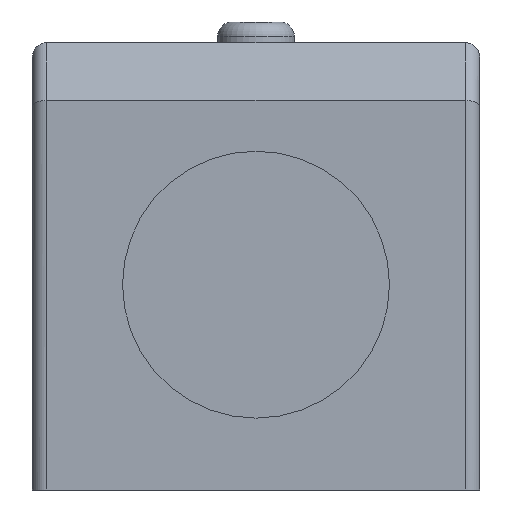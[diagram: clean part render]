
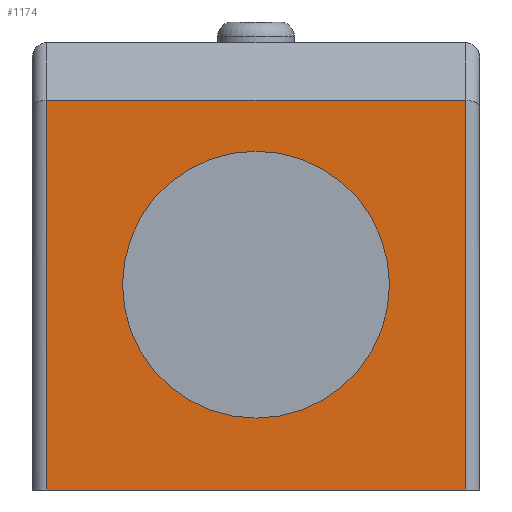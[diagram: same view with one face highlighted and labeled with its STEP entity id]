
A CAD part, front view. The second image highlights one B-rep face of the part: STEP entity #1174.
In plain terms, the highlighted planar face has unit normal (0, -1, 0).
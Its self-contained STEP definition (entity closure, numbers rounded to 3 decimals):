
#24=DIRECTION('',(1.,0.,0.));
#25=VECTOR('',#24,29.);
#26=CARTESIAN_POINT('',(-14.5,-30.23,-15.5));
#27=LINE('',#26,#25);
#102=DIRECTION('',(0.,0.,-1.));
#103=VECTOR('',#102,27.);
#104=CARTESIAN_POINT('',(14.5,-30.23,11.5));
#105=LINE('',#104,#103);
#106=DIRECTION('',(0.,0.,-1.));
#107=VECTOR('',#106,27.);
#108=CARTESIAN_POINT('',(-14.5,-30.23,11.5));
#109=LINE('',#108,#107);
#110=DIRECTION('',(1.,0.,0.));
#111=VECTOR('',#110,29.);
#112=CARTESIAN_POINT('',(-14.5,-30.23,11.5));
#113=LINE('',#112,#111);
#114=CARTESIAN_POINT('',(0.,-30.23,-1.268));
#115=DIRECTION('',(0.,-1.,0.));
#116=DIRECTION('',(1.,0.,0.));
#117=AXIS2_PLACEMENT_3D('',#114,#115,#116);
#119=CARTESIAN_POINT('',(0.,-30.23,-1.268));
#120=DIRECTION('',(0.,-1.,0.));
#121=DIRECTION('',(-1.,0.,0.));
#122=AXIS2_PLACEMENT_3D('',#119,#120,#121);
#869=CARTESIAN_POINT('',(14.5,-30.23,-15.5));
#871=VERTEX_POINT('',#869);
#872=CARTESIAN_POINT('',(14.5,-30.23,11.5));
#873=VERTEX_POINT('',#872);
#918=CARTESIAN_POINT('',(-14.5,-30.23,11.5));
#919=VERTEX_POINT('',#918);
#920=CARTESIAN_POINT('',(-14.5,-30.23,-15.5));
#922=VERTEX_POINT('',#920);
#1076=CARTESIAN_POINT('',(9.25,-30.23,-1.268));
#1077=CARTESIAN_POINT('',(-9.25,-30.23,-1.268));
#1078=VERTEX_POINT('',#1076);
#1079=VERTEX_POINT('',#1077);
#1155=CARTESIAN_POINT('',(-15.5,-30.23,-15.5));
#1156=DIRECTION('',(0.,-1.,0.));
#1157=DIRECTION('',(1.,0.,0.));
#1158=AXIS2_PLACEMENT_3D('',#1155,#1156,#1157);
#1159=PLANE('',#1158);
#1160=ORIENTED_EDGE('',*,*,#1146,.T.);
#1161=ORIENTED_EDGE('',*,*,#1095,.F.);
#1163=ORIENTED_EDGE('',*,*,#1162,.F.);
#1165=ORIENTED_EDGE('',*,*,#1164,.T.);
#1166=EDGE_LOOP('',(#1160,#1161,#1163,#1165));
#1167=FACE_OUTER_BOUND('',#1166,.F.);
#1169=ORIENTED_EDGE('',*,*,#1168,.T.);
#1171=ORIENTED_EDGE('',*,*,#1170,.T.);
#1172=EDGE_LOOP('',(#1169,#1171));
#1173=FACE_BOUND('',#1172,.F.);
#118=CIRCLE('',#117,9.25);
#123=CIRCLE('',#122,9.25);
#1095=EDGE_CURVE('',#922,#871,#27,.T.);
#1146=EDGE_CURVE('',#873,#871,#105,.T.);
#1162=EDGE_CURVE('',#919,#922,#109,.T.);
#1164=EDGE_CURVE('',#919,#873,#113,.T.);
#1168=EDGE_CURVE('',#1078,#1079,#118,.T.);
#1170=EDGE_CURVE('',#1079,#1078,#123,.T.);
#1174=ADVANCED_FACE('',(#1167,#1173),#1159,.T.);
